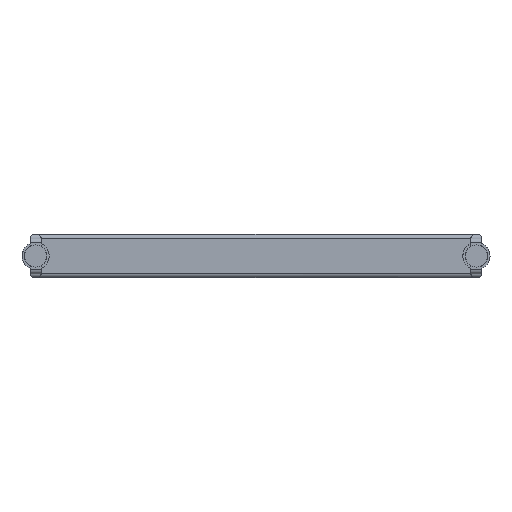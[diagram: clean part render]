
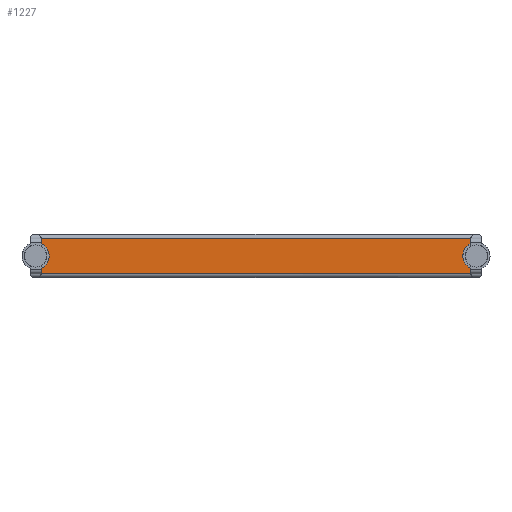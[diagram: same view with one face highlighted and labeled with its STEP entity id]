
A CAD part, front view. The second image highlights one B-rep face of the part: STEP entity #1227.
In plain terms, the highlighted planar face has unit normal (0, -1, 0).
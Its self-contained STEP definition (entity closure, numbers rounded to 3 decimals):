
#24=PLANE('',#1338);
#146=FACE_OUTER_BOUND('',#228,.T.);
#228=EDGE_LOOP('',(#868,#869,#870,#871));
#313=LINE('',#1853,#411);
#344=LINE('',#1959,#442);
#350=LINE('',#1971,#448);
#353=LINE('',#1976,#451);
#411=VECTOR('',#1448,19.81);
#442=VECTOR('',#1565,19.81);
#448=VECTOR('',#1579,1.6);
#451=VECTOR('',#1584,1.6);
#510=VERTEX_POINT('',#1850);
#511=VERTEX_POINT('',#1852);
#515=VERTEX_POINT('',#1861);
#540=VERTEX_POINT('',#1947);
#608=EDGE_CURVE('',#510,#511,#313,.T.);
#662=EDGE_CURVE('',#515,#540,#344,.T.);
#669=EDGE_CURVE('',#540,#510,#350,.T.);
#672=EDGE_CURVE('',#511,#515,#353,.T.);
#868=ORIENTED_EDGE('',*,*,#662,.F.);
#869=ORIENTED_EDGE('',*,*,#672,.F.);
#870=ORIENTED_EDGE('',*,*,#608,.F.);
#871=ORIENTED_EDGE('',*,*,#669,.F.);
#1227=ADVANCED_FACE('',(#146),#24,.T.);
#1338=AXIS2_PLACEMENT_3D('',#1975,#1582,#1583);
#1448=DIRECTION('',(1.,0.,0.));
#1565=DIRECTION('',(-1.,0.,0.));
#1579=DIRECTION('',(0.,0.,1.));
#1582=DIRECTION('center_axis',(0.,-1.,0.));
#1583=DIRECTION('ref_axis',(1.,0.,0.));
#1584=DIRECTION('',(0.,0.,-1.));
#1850=CARTESIAN_POINT('',(0.51,6.49,1.8));
#1852=CARTESIAN_POINT('',(20.32,6.49,1.8));
#1853=CARTESIAN_POINT('',(5.335,6.49,1.8));
#1861=CARTESIAN_POINT('',(20.32,6.49,0.2));
#1947=CARTESIAN_POINT('',(0.51,6.49,0.2));
#1959=CARTESIAN_POINT('',(0.255,6.49,0.2));
#1971=CARTESIAN_POINT('',(0.51,6.49,0.));
#1975=CARTESIAN_POINT('Origin',(0.255,6.49,0.));
#1976=CARTESIAN_POINT('',(20.32,6.49,0.));
